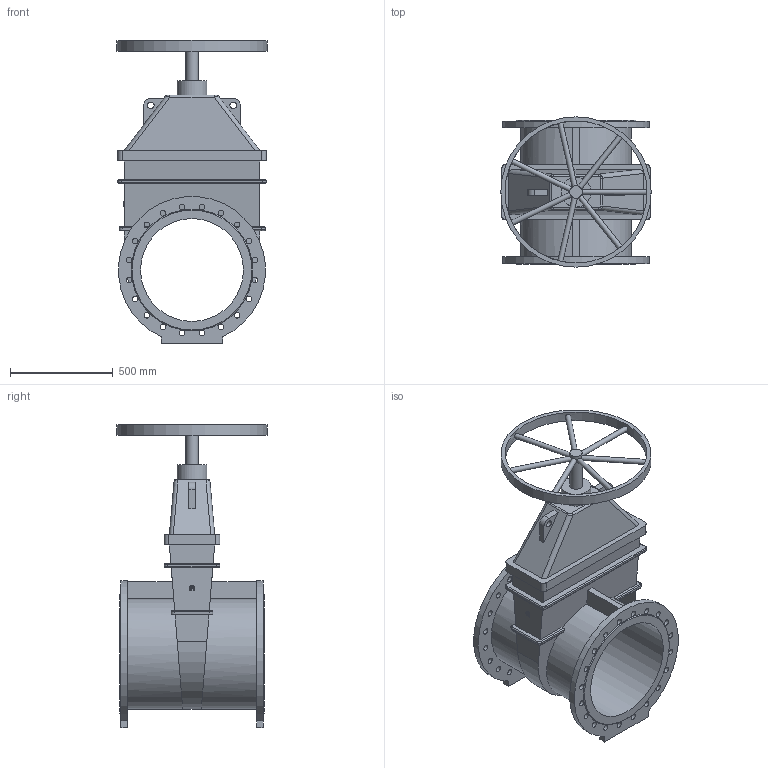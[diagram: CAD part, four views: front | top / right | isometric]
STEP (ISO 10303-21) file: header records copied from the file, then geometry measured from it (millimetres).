
FILE_DESCRIPTION(('STEP AP203'), '1');
FILE_NAME('Çàäâèæêà 47GV DN500 PN10_L700_W730 ñ ìàõîâèêîì', '', ('UNSPECIFIED'), ('UNSPECIFIED'), 'ASCON STEP Converter 1.6', 'ASCON Math Kernel', '');
FILE_SCHEMA(('CONFIG_CONTROL_DESIGN'));
Length unit declared in the file: millimetre
Bounding box: 730 x 730 x 1473.5 mm (x, y, z)
Volume: 120412388.6 mm3; surface area: 5119458.1 mm2
Topology: 1 solids, 1 shells, 215 faces, 549 edges, 352 vertices
Faces by surface type: cylinder 108, plane 85, bspline 16, torus 4, cone 2
Full cylindrical faces by diameter (mm): 25 x7, 28 x40, 32 x2, 60 x1, 145 x1, 500 x1, 690 x1, 730 x1
Entity records: 11025 total; most frequent: CARTESIAN_POINT 4158, DIRECTION 1006, ORIENTED_EDGE 984, EDGE_CURVE 492, EDGE_LOOP 388, AXIS2_PLACEMENT_3D 384, VERTEX_POINT 352, FACE_BOUND 277
